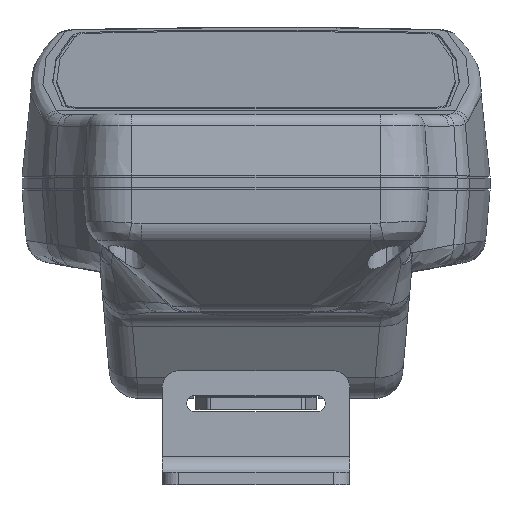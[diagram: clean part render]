
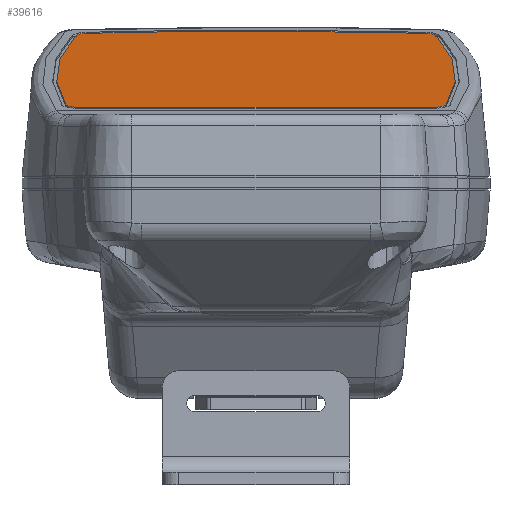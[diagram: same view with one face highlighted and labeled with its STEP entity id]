
A CAD part, top view. The second image highlights one B-rep face of the part: STEP entity #39616.
In plain terms, the highlighted planar face has unit normal (0, 0.966, 0.259).
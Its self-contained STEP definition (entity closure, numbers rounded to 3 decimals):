
#831 = CARTESIAN_POINT ( 'NONE',  ( 34.685, 38.878, -101.052 ) ) ;
#1060 = CARTESIAN_POINT ( 'NONE',  ( 48.982, 25.329, -50.488 ) ) ;
#1174 = CARTESIAN_POINT ( 'NONE',  ( 43.746, 20.428, -32.196 ) ) ;
#3976 = AXIS2_PLACEMENT_3D ( 'NONE', #29550, #11884, #50575 ) ;
#3985 = DIRECTION ( 'NONE',  ( 0., -0.259, 0.966 ) ) ;
#4409 = EDGE_CURVE ( 'NONE', #22409, #29011, #28596, .T. ) ;
#4484 = EDGE_CURVE ( 'NONE', #37196, #8700, #19343, .T. ) ;
#4981 = CARTESIAN_POINT ( 'NONE',  ( 41.594, 38.7, -100.389 ) ) ;
#5195 = AXIS2_PLACEMENT_3D ( 'NONE', #8703, #29419, #3985 ) ;
#6868 = CARTESIAN_POINT ( 'NONE',  ( -49.228, 29.635, -66.556 ) ) ;
#7644 = VERTEX_POINT ( 'NONE', #51435 ) ;
#8693 = CIRCLE ( 'NONE', #39614, 3. ) ;
#8700 = VERTEX_POINT ( 'NONE', #49125 ) ;
#8703 = CARTESIAN_POINT ( 'NONE',  ( -41.298, 37.928, -97.505 ) ) ;
#9663 = CARTESIAN_POINT ( 'NONE',  ( 44.205, 38.119, -98.219 ) ) ;
#10758 = VERTEX_POINT ( 'NONE', #48114 ) ;
#11016 = CARTESIAN_POINT ( 'NONE',  ( -47.724, 33.922, -82.556 ) ) ;
#11884 = DIRECTION ( 'NONE',  ( 0., -0.966, -0.259 ) ) ;
#12568 = AXIS2_PLACEMENT_3D ( 'NONE', #38713, #54484, #50329 ) ;
#13495 = B_SPLINE_CURVE_WITH_KNOTS ( 'NONE', 3,
 ( #32042, #48885, #11016, #6868, #23725, #40612, #53303 ),
 .UNSPECIFIED., .F., .F.,
 ( 4, 1, 1, 1, 4 ),
 ( 0.04, 0.262, 0.484, 0.706, 0.928 ),
 .UNSPECIFIED. ) ;
#14101 = CARTESIAN_POINT ( 'NONE',  ( -34.685, 38.878, -101.052 ) ) ;
#16835 = EDGE_CURVE ( 'NONE', #7644, #20872, #40982, .T. ) ;
#17971 = CARTESIAN_POINT ( 'NONE',  ( 0., 39.278, -102.545 ) ) ;
#19343 = CIRCLE ( 'NONE', #5195, 3. ) ;
#19345 = ORIENTED_EDGE ( 'NONE', *, *, #4484, .T. ) ;
#19640 = CIRCLE ( 'NONE', #12568, 3. ) ;
#20096 = B_SPLINE_CURVE_WITH_KNOTS ( 'NONE', 3,
 ( #4981, #831, #30965, #17971, #35133, #14101, #34031 ),
 .UNSPECIFIED., .F., .F.,
 ( 4, 1, 1, 1, 4 ),
 ( 0.034, 0.267, 0.5, 0.733, 0.966 ),
 .UNSPECIFIED. ) ;
#20362 = CARTESIAN_POINT ( 'NONE',  ( 41.298, 37.928, -97.505 ) ) ;
#20740 = FACE_OUTER_BOUND ( 'NONE', #26061, .T. ) ;
#20872 = VERTEX_POINT ( 'NONE', #37728 ) ;
#20927 = CIRCLE ( 'NONE', #41268, 3. ) ;
#21212 = EDGE_CURVE ( 'NONE', #35034, #37196, #20096, .T. ) ;
#22075 = CARTESIAN_POINT ( 'NONE',  ( 46.701, 21.071, -34.595 ) ) ;
#22409 = VERTEX_POINT ( 'NONE', #54631 ) ;
#23631 = DIRECTION ( 'NONE',  ( 1., 0., 0. ) ) ;
#23725 = CARTESIAN_POINT ( 'NONE',  ( -48.982, 25.329, -50.488 ) ) ;
#24458 = CARTESIAN_POINT ( 'NONE',  ( 43.746, 20.428, -32.196 ) ) ;
#25403 = PLANE ( 'NONE',  #3976 ) ;
#26061 = EDGE_LOOP ( 'NONE', ( #33859, #19345, #47683, #31051, #52152, #49485, #45646, #33348 ) ) ;
#28350 = DIRECTION ( 'NONE',  ( 0., 0.259, -0.966 ) ) ;
#28402 = EDGE_CURVE ( 'NONE', #29011, #7644, #20927, .T. ) ;
#28596 = LINE ( 'NONE', #24458, #51978 ) ;
#29011 = VERTEX_POINT ( 'NONE', #1174 ) ;
#29419 = DIRECTION ( 'NONE',  ( 0., 0.966, 0.259 ) ) ;
#29550 = CARTESIAN_POINT ( 'NONE',  ( -75.5, 18.5, -25. ) ) ;
#30965 = CARTESIAN_POINT ( 'NONE',  ( 20.828, 39.145, -102.047 ) ) ;
#31051 = ORIENTED_EDGE ( 'NONE', *, *, #50650, .T. ) ;
#31187 = DIRECTION ( 'NONE',  ( 0., 0.259, -0.966 ) ) ;
#32042 = CARTESIAN_POINT ( 'NONE',  ( -44.205, 38.119, -98.219 ) ) ;
#33348 = ORIENTED_EDGE ( 'NONE', *, *, #45230, .T. ) ;
#33859 = ORIENTED_EDGE ( 'NONE', *, *, #21212, .T. ) ;
#34031 = CARTESIAN_POINT ( 'NONE',  ( -41.594, 38.7, -100.389 ) ) ;
#35034 = VERTEX_POINT ( 'NONE', #49993 ) ;
#35133 = CARTESIAN_POINT ( 'NONE',  ( -20.828, 39.145, -102.047 ) ) ;
#36169 = DIRECTION ( 'NONE',  ( 0., 0.966, 0.259 ) ) ;
#37196 = VERTEX_POINT ( 'NONE', #42445 ) ;
#37728 = CARTESIAN_POINT ( 'NONE',  ( 44.205, 38.119, -98.219 ) ) ;
#38133 = CARTESIAN_POINT ( 'NONE',  ( 45.567, 36.733, -93.046 ) ) ;
#38713 = CARTESIAN_POINT ( 'NONE',  ( -43.746, 21.205, -35.094 ) ) ;
#39614 = AXIS2_PLACEMENT_3D ( 'NONE', #20362, #46055, #28350 ) ;
#39616 = ADVANCED_FACE ( 'NONE', ( #20740 ), #25403, .F. ) ;
#40612 = CARTESIAN_POINT ( 'NONE',  ( -47.653, 22.481, -39.858 ) ) ;
#40982 = B_SPLINE_CURVE_WITH_KNOTS ( 'NONE', 3,
 ( #22075, #46432, #1060, #51660, #42844, #38133, #9663 ),
 .UNSPECIFIED., .F., .F.,
 ( 4, 1, 1, 1, 4 ),
 ( 0.072, 0.294, 0.516, 0.738, 0.96 ),
 .UNSPECIFIED. ) ;
#41268 = AXIS2_PLACEMENT_3D ( 'NONE', #43642, #36169, #31187 ) ;
#42445 = CARTESIAN_POINT ( 'NONE',  ( -41.594, 38.7, -100.389 ) ) ;
#42844 = CARTESIAN_POINT ( 'NONE',  ( 47.724, 33.922, -82.556 ) ) ;
#43642 = CARTESIAN_POINT ( 'NONE',  ( 43.746, 21.205, -35.094 ) ) ;
#45230 = EDGE_CURVE ( 'NONE', #20872, #35034, #8693, .T. ) ;
#45646 = ORIENTED_EDGE ( 'NONE', *, *, #16835, .T. ) ;
#46055 = DIRECTION ( 'NONE',  ( 0., 0.966, 0.259 ) ) ;
#46432 = CARTESIAN_POINT ( 'NONE',  ( 47.653, 22.481, -39.858 ) ) ;
#47683 = ORIENTED_EDGE ( 'NONE', *, *, #50832, .T. ) ;
#48114 = CARTESIAN_POINT ( 'NONE',  ( -46.701, 21.071, -34.595 ) ) ;
#48885 = CARTESIAN_POINT ( 'NONE',  ( -45.567, 36.733, -93.046 ) ) ;
#49125 = CARTESIAN_POINT ( 'NONE',  ( -44.205, 38.119, -98.219 ) ) ;
#49485 = ORIENTED_EDGE ( 'NONE', *, *, #28402, .T. ) ;
#49993 = CARTESIAN_POINT ( 'NONE',  ( 41.594, 38.7, -100.389 ) ) ;
#50329 = DIRECTION ( 'NONE',  ( 0., 0.259, -0.966 ) ) ;
#50575 = DIRECTION ( 'NONE',  ( 0., 0.259, -0.966 ) ) ;
#50650 = EDGE_CURVE ( 'NONE', #10758, #22409, #19640, .T. ) ;
#50832 = EDGE_CURVE ( 'NONE', #8700, #10758, #13495, .T. ) ;
#51435 = CARTESIAN_POINT ( 'NONE',  ( 46.701, 21.071, -34.595 ) ) ;
#51660 = CARTESIAN_POINT ( 'NONE',  ( 49.228, 29.635, -66.556 ) ) ;
#51978 = VECTOR ( 'NONE', #23631, 1000. ) ;
#52152 = ORIENTED_EDGE ( 'NONE', *, *, #4409, .T. ) ;
#53303 = CARTESIAN_POINT ( 'NONE',  ( -46.701, 21.071, -34.595 ) ) ;
#54484 = DIRECTION ( 'NONE',  ( 0., 0.966, 0.259 ) ) ;
#54631 = CARTESIAN_POINT ( 'NONE',  ( -43.746, 20.428, -32.196 ) ) ;
